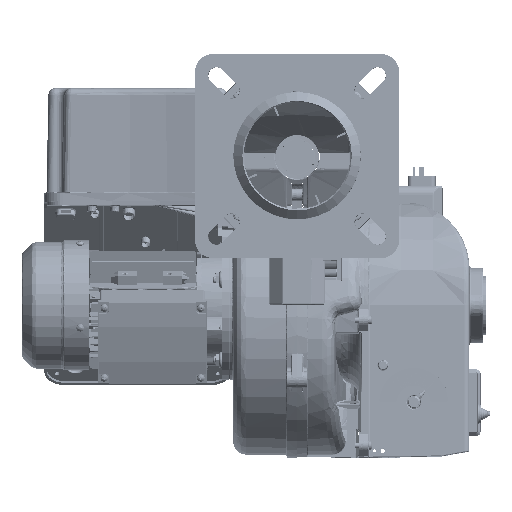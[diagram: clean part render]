
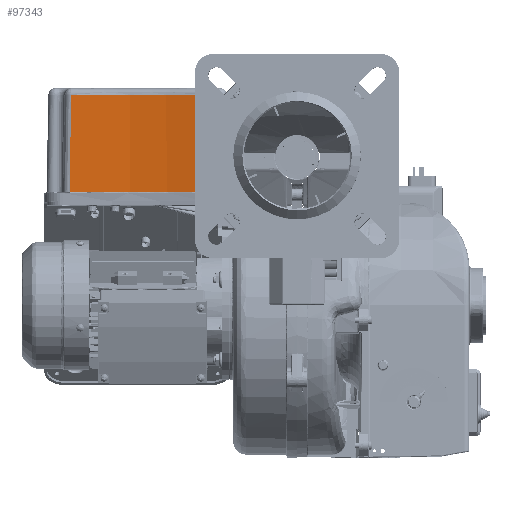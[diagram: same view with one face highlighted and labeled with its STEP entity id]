
A CAD part, top view. The second image highlights one B-rep face of the part: STEP entity #97343.
In plain terms, the highlighted conical face has half-angle 1 degrees and reference radius 626.335 mm.
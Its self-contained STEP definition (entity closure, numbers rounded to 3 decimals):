
#299 = EDGE_LOOP ( 'NONE', ( #123328, #290640, #28313, #161255 ) ) ;
#537 = CARTESIAN_POINT ( 'NONE',  ( -136.978, 226.307, 112.904 ) ) ;
#16901 = EDGE_CURVE ( 'NONE', #170962, #233244, #85497, .T. ) ;
#25565 = CARTESIAN_POINT ( 'NONE',  ( -101.817, 191.394, 122.699 ) ) ;
#28104 = CARTESIAN_POINT ( 'NONE',  ( -147.979, 121.666, 112.73 ) ) ;
#28313 = ORIENTED_EDGE ( 'NONE', *, *, #175816, .F. ) ;
#43074 = CARTESIAN_POINT ( 'NONE',  ( -207.453, 226.266, 101.801 ) ) ;
#44071 = CARTESIAN_POINT ( 'NONE',  ( -102.418, 226.339, 121.772 ) ) ;
#44110 = B_SPLINE_CURVE_WITH_KNOTS ( 'NONE', 3,
 ( #276659, #205578, #138573, #28104, #250960, #51791 ),
 .UNSPECIFIED., .F., .F.,
 ( 4, 2, 4 ),
 ( 0., 0.5, 1. ),
 .UNSPECIFIED. ) ;
#47365 = CARTESIAN_POINT ( 'NONE',  ( -101.217, 156.517, 123.626 ) ) ;
#48250 = CARTESIAN_POINT ( 'NONE',  ( -269.582, 228.551, 725.383 ) ) ;
#51791 = CARTESIAN_POINT ( 'NONE',  ( -100.619, 121.709, 124.553 ) ) ;
#53596 = CARTESIAN_POINT ( 'NONE',  ( -243.066, 226.258, 99.614 ) ) ;
#55513 = CARTESIAN_POINT ( 'NONE',  ( -244.27, 156.466, 101.039 ) ) ;
#65707 = CARTESIAN_POINT ( 'NONE',  ( -231.187, 226.26, 100.117 ) ) ;
#72234 = CARTESIAN_POINT ( 'NONE',  ( -102.418, 226.339, 121.772 ) ) ;
#76186 = CARTESIAN_POINT ( 'NONE',  ( -244.872, 121.626, 101.751 ) ) ;
#83673 = AXIS2_PLACEMENT_3D ( 'NONE', #48250, #92616, #273043 ) ;
#85497 = B_SPLINE_CURVE_WITH_KNOTS ( 'NONE', 3,
 ( #53596, #278431, #55513, #76186 ),
 .UNSPECIFIED., .F., .F.,
 ( 4, 4 ),
 ( 0., 1. ),
 .UNSPECIFIED. ) ;
#86596 = CARTESIAN_POINT ( 'NONE',  ( -244.872, 121.626, 101.751 ) ) ;
#92616 = DIRECTION ( 'NONE',  ( 0., 1., -0.004 ) ) ;
#97080 = EDGE_CURVE ( 'NONE', #233244, #194245, #44110, .T. ) ;
#97343 = ADVANCED_FACE ( 'NONE', ( #167107 ), #124641, .F. ) ;
#123328 = ORIENTED_EDGE ( 'NONE', *, *, #97080, .T. ) ;
#124641 = CONICAL_SURFACE ( 'NONE', #83673, 626.335, 0.017 ) ;
#138573 = CARTESIAN_POINT ( 'NONE',  ( -196.173, 121.638, 105.112 ) ) ;
#149937 = CARTESIAN_POINT ( 'NONE',  ( -100.619, 121.709, 124.553 ) ) ;
#155712 = CARTESIAN_POINT ( 'NONE',  ( -100.619, 121.709, 124.553 ) ) ;
#161255 = ORIENTED_EDGE ( 'NONE', *, *, #16901, .T. ) ;
#167107 = FACE_OUTER_BOUND ( 'NONE', #299, .T. ) ;
#170962 = VERTEX_POINT ( 'NONE', #223088 ) ;
#172615 = EDGE_CURVE ( 'NONE', #194245, #219696, #289503, .T. ) ;
#175816 = EDGE_CURVE ( 'NONE', #170962, #219696, #283722, .T. ) ;
#181003 = CARTESIAN_POINT ( 'NONE',  ( -172.057, 226.283, 106.349 ) ) ;
#194245 = VERTEX_POINT ( 'NONE', #155712 ) ;
#205578 = CARTESIAN_POINT ( 'NONE',  ( -220.494, 121.629, 102.717 ) ) ;
#219696 = VERTEX_POINT ( 'NONE', #72234 ) ;
#223088 = CARTESIAN_POINT ( 'NONE',  ( -243.066, 226.258, 99.614 ) ) ;
#223446 = CARTESIAN_POINT ( 'NONE',  ( -113.876, 226.328, 118.599 ) ) ;
#233244 = VERTEX_POINT ( 'NONE', #86596 ) ;
#247032 = CARTESIAN_POINT ( 'NONE',  ( -243.066, 226.258, 99.614 ) ) ;
#250960 = CARTESIAN_POINT ( 'NONE',  ( -124.105, 121.685, 117.953 ) ) ;
#273043 = DIRECTION ( 'NONE',  ( 0., -0.004, -1. ) ) ;
#276659 = CARTESIAN_POINT ( 'NONE',  ( -244.872, 121.626, 101.751 ) ) ;
#278431 = CARTESIAN_POINT ( 'NONE',  ( -243.668, 191.344, 100.326 ) ) ;
#279101 = CARTESIAN_POINT ( 'NONE',  ( -102.418, 226.339, 121.772 ) ) ;
#283722 = B_SPLINE_CURVE_WITH_KNOTS ( 'NONE', 3,
 ( #247032, #65707, #43074, #181003, #537, #223446, #44071 ),
 .UNSPECIFIED., .F., .F.,
 ( 4, 1, 1, 1, 4 ),
 ( 0., 0.25, 0.5, 0.75, 1. ),
 .UNSPECIFIED. ) ;
#289503 = B_SPLINE_CURVE_WITH_KNOTS ( 'NONE', 3,
 ( #149937, #47365, #25565, #279101 ),
 .UNSPECIFIED., .F., .F.,
 ( 4, 4 ),
 ( 0., 1. ),
 .UNSPECIFIED. ) ;
#290640 = ORIENTED_EDGE ( 'NONE', *, *, #172615, .T. ) ;
